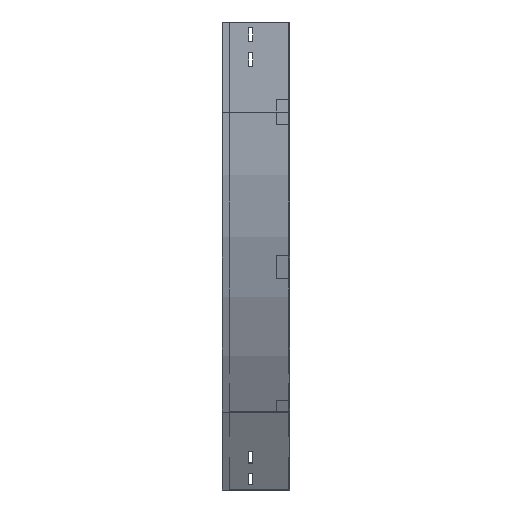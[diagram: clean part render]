
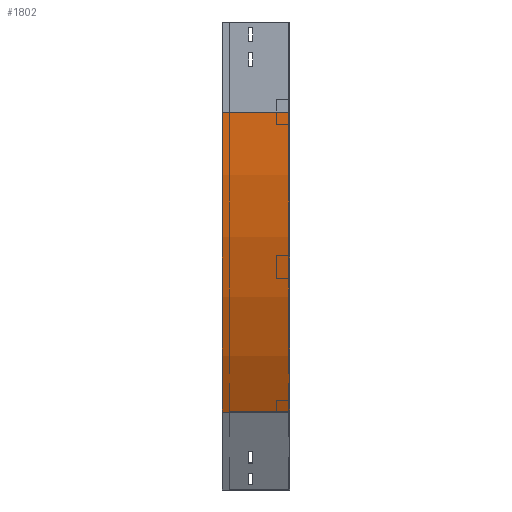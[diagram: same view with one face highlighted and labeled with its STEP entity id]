
A CAD part, left-side view. The second image highlights one B-rep face of the part: STEP entity #1802.
In plain terms, the highlighted cylindrical face has radius 1000 mm (diameter 2000 mm), a partial arc.
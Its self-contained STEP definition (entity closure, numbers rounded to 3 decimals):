
#41 = EDGE_CURVE ( 'NONE', #2783, #3154, #1003, .T. ) ;
#82 = AXIS2_PLACEMENT_3D ( 'NONE', #2428, #3045, #2756 ) ;
#288 = LINE ( 'NONE', #1475, #2478 ) ;
#418 = CARTESIAN_POINT ( 'NONE',  ( 1000., 0., -150. ) ) ;
#453 = LINE ( 'NONE', #2184, #1875 ) ;
#525 = CIRCLE ( 'NONE', #82, 1000. ) ;
#563 = EDGE_CURVE ( 'NONE', #1394, #2783, #453, .T. ) ;
#612 = ORIENTED_EDGE ( 'NONE', *, *, #563, .F. ) ;
#1003 = CIRCLE ( 'NONE', #3672, 1000. ) ;
#1138 = EDGE_CURVE ( 'NONE', #1394, #1402, #525, .T. ) ;
#1312 = DIRECTION ( 'NONE',  ( 0., -1., 0. ) ) ;
#1391 = DIRECTION ( 'NONE',  ( 0., -1., 0. ) ) ;
#1394 = VERTEX_POINT ( 'NONE', #3481 ) ;
#1402 = VERTEX_POINT ( 'NONE', #2966 ) ;
#1475 = CARTESIAN_POINT ( 'NONE',  ( 133.975, 0., -650. ) ) ;
#1483 = CARTESIAN_POINT ( 'NONE',  ( 0., 0., -150. ) ) ;
#1632 = DIRECTION ( 'NONE',  ( 0., -1., 0. ) ) ;
#1802 = ADVANCED_FACE ( 'NONE', ( #3242 ), #2653, .T. ) ;
#1875 = VECTOR ( 'NONE', #1312, 1000. ) ;
#1988 = ORIENTED_EDGE ( 'NONE', *, *, #41, .F. ) ;
#2184 = CARTESIAN_POINT ( 'NONE',  ( 0., 0., -150. ) ) ;
#2248 = DIRECTION ( 'NONE',  ( -1., 0., 0. ) ) ;
#2293 = ORIENTED_EDGE ( 'NONE', *, *, #3119, .T. ) ;
#2422 = DIRECTION ( 'NONE',  ( 0., -1., 0. ) ) ;
#2428 = CARTESIAN_POINT ( 'NONE',  ( 1000., 112.5, -150. ) ) ;
#2478 = VECTOR ( 'NONE', #2422, 1000. ) ;
#2567 = AXIS2_PLACEMENT_3D ( 'NONE', #2905, #1391, #2946 ) ;
#2653 = CYLINDRICAL_SURFACE ( 'NONE', #2567, 1000. ) ;
#2756 = DIRECTION ( 'NONE',  ( -1., 0., 0. ) ) ;
#2783 = VERTEX_POINT ( 'NONE', #1483 ) ;
#2905 = CARTESIAN_POINT ( 'NONE',  ( 1000., 0., -150. ) ) ;
#2946 = DIRECTION ( 'NONE',  ( 0., 0., -1. ) ) ;
#2966 = CARTESIAN_POINT ( 'NONE',  ( 133.975, 112.5, -650. ) ) ;
#3045 = DIRECTION ( 'NONE',  ( 0., -1., 0. ) ) ;
#3119 = EDGE_CURVE ( 'NONE', #1402, #3154, #288, .T. ) ;
#3154 = VERTEX_POINT ( 'NONE', #3333 ) ;
#3242 = FACE_OUTER_BOUND ( 'NONE', #3708, .T. ) ;
#3333 = CARTESIAN_POINT ( 'NONE',  ( 133.975, 0., -650. ) ) ;
#3401 = ORIENTED_EDGE ( 'NONE', *, *, #1138, .T. ) ;
#3481 = CARTESIAN_POINT ( 'NONE',  ( 0., 112.5, -150. ) ) ;
#3672 = AXIS2_PLACEMENT_3D ( 'NONE', #418, #1632, #2248 ) ;
#3708 = EDGE_LOOP ( 'NONE', ( #1988, #612, #3401, #2293 ) ) ;
